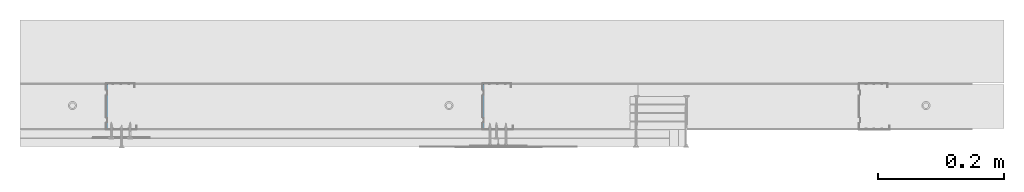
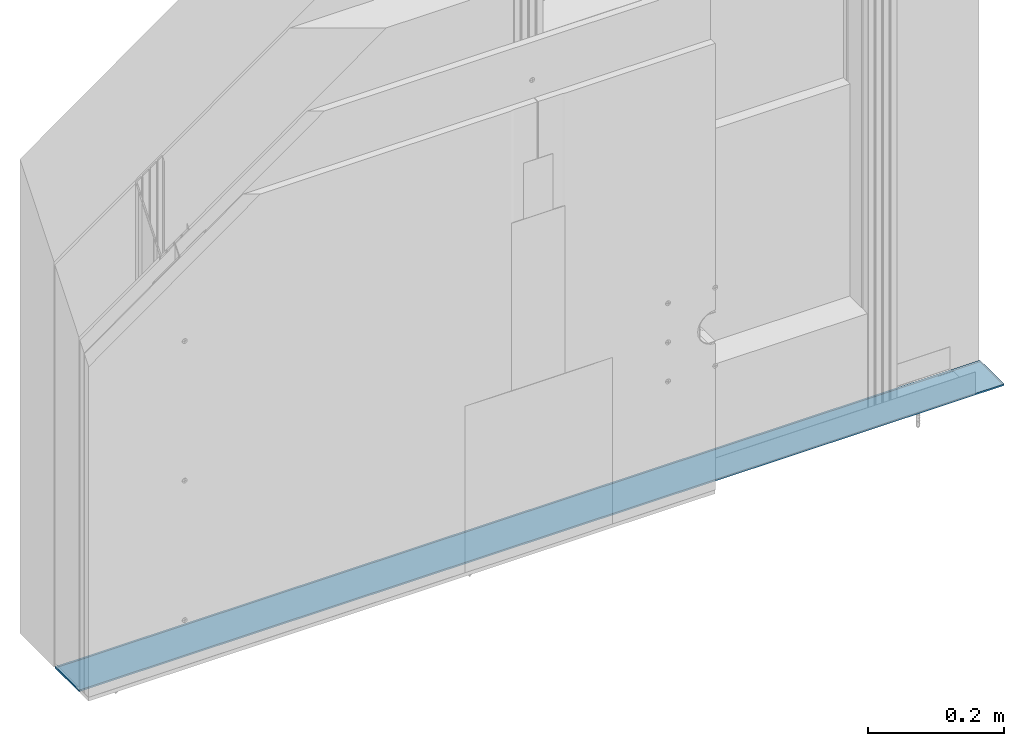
# One storey, part 1 of 32: 1 wall.
"""IFC2X3 building model written with IfcOpenShell, lengths in millimetres."""

from ifc_helpers import new_model, entity, si_unit, converted_unit, direction, frame, origin, origin_with_axes, place, context, project, spatial, faceted_brep, element, save


model = new_model("IFC2X3")

# Units and contexts
model_context = context("Model", 3, precision=1e-05, world=origin(), true_north=direction((0.0, 1.0, 0.0)))
ifc_project = project(units=[si_unit("LENGTHUNIT", "METRE", prefix="MILLI"), si_unit("AREAUNIT", "SQUARE_METRE"), si_unit("VOLUMEUNIT", "CUBIC_METRE"), converted_unit("PLANEANGLEUNIT", "DEGREE", entity("IfcPlaneAngleMeasure", 0.01745), si_unit("PLANEANGLEUNIT", "RADIAN"), dimensions=[0, 0, 0, 0, 0, 0, 0]), si_unit("SOLIDANGLEUNIT", "STERADIAN"), si_unit("MASSUNIT", "GRAM"), si_unit("TIMEUNIT", "SECOND"), si_unit("THERMODYNAMICTEMPERATUREUNIT", "DEGREE_CELSIUS"), si_unit("LUMINOUSINTENSITYUNIT", "LUMEN")], contexts=[model_context])

# Site, building, storey
site_placement = place(None, origin_with_axes())
site = spatial("IfcSite", under=ifc_project, at=site_placement, Name="Default Site", CompositionType="ELEMENT")
building_placement = place(site_placement, origin_with_axes())
building = spatial("IfcBuilding", under=site, at=building_placement, Name="Default Building", CompositionType="ELEMENT")
storey_placement = place(building_placement, origin_with_axes())
storey = spatial("IfcBuildingStorey", under=building, at=storey_placement, Name="Default Building Storey", CompositionType="ELEMENT", Elevation=0.0)

# Wall
wall_placement = place(storey_placement, frame((1825.000000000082, 1992.890922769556, 2.384025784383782), z_axis=(0.0, 0.0, 1.0), x_axis=(1.0, 0.0, 0.0)))
element("IfcWall", 1, at=wall_placement, inside=storey, Name="Taśma uszczelniająca piankowa RIGIPS", context=model_context, shape_type="Brep", body=[
    faceted_brep([(1868.040618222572, -43.50000002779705, 2.998418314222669), (300.0251334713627, -43.50000002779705, 2.998418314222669), (300.0251334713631, -43.50000002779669, -2.129427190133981e-12), (1868.040618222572, -43.50000002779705, -2.129427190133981e-12), (300.0251334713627, 26.69999997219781, 0.001783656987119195), (1868.040618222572, 26.69999997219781, 0.001783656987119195), (300.0251334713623, 26.69999997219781, 3.001783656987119), (1868.040618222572, 26.69999997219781, 3.001783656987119)], [[[0, 1, 2, 3]], [[3, 2, 4, 5]], [[6, 4, 2, 1]], [[5, 4, 6, 7]], [[7, 0, 3, 5]]]),
])

save(model, "model.ifc")
